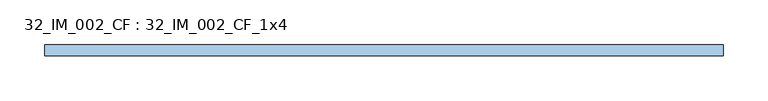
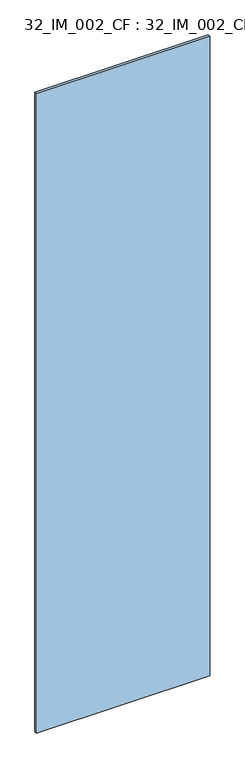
"""IFC4 building model written with IfcOpenShell, lengths in millimetres: window geometry, 32_IM_002_CF : 32_IM_002_CF_1x4."""

from ifc_helpers import new_model, si_unit, origin, origin_with_axes, place, context, project, spatial, polyline, outline, extrude, source, transform, mapped, element, save


def window_32_im_002_cf_32_im_002_cf_1x4_97abe2d1(model_context):
    return source(origin(), model_context, "Body", "SweptSolid", [
        extrude(outline(polyline([(377.9999998, -6.0), (-377.9999998, -6.0), (-377.9999998, 6.0), (377.9999998, 6.0), (377.9999998, -6.0)])), origin_with_axes(), (0.0, 0.0, 1.0), 2945.0),
    ])


if __name__ == "__main__":
    model = new_model("IFC4")
    model_context = context("Model", 3, world=origin())
    ifc_project = project(units=[si_unit("LENGTHUNIT", "METRE", prefix="MILLI")], contexts=[model_context])
    site = spatial("IfcSite", under=ifc_project)
    building = spatial("IfcBuilding", under=site)
    placement = place(None, origin())
    window_32_im_002_cf_32_im_002_cf_1x4_shape = window_32_im_002_cf_32_im_002_cf_1x4_97abe2d1(model_context)
    element("IfcWindow", 1, ObjectType="32_IM_002_CF : 32_IM_002_CF_1x4", at=placement, inside=building, context=model_context, shape_type="MappedRepresentation", body=[
        mapped(window_32_im_002_cf_32_im_002_cf_1x4_shape, transform((0.0, 0.0, 0.0), x_axis=(1.0, 0.0, 0.0), y_axis=(0.0, 1.0, 0.0), z_axis=(0.0, 0.0, 1.0))),
    ])
    save(model, "model.ifc")
